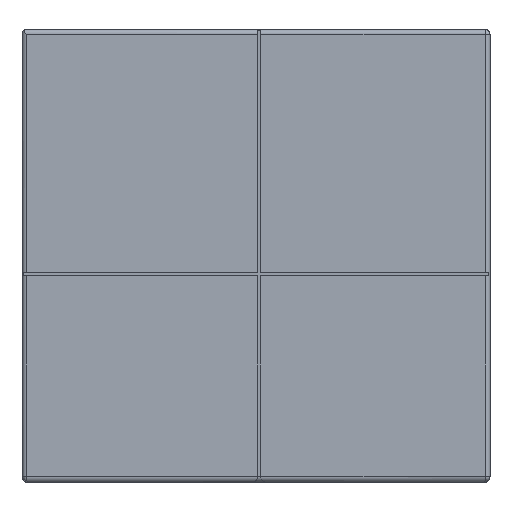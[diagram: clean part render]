
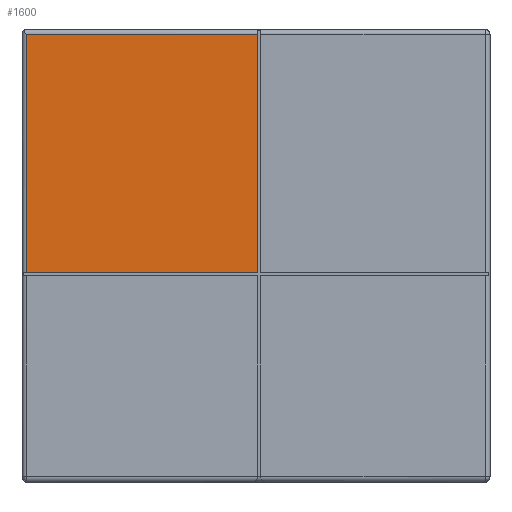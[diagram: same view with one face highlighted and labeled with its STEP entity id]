
A CAD part, front view. The second image highlights one B-rep face of the part: STEP entity #1600.
In plain terms, the highlighted planar face has unit normal (0, -1, 0).
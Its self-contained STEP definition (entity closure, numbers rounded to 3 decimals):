
#142 = AXIS2_PLACEMENT_3D ( 'NONE', #1534, #1301, #2786 ) ;
#184 = LINE ( 'NONE', #1358, #1433 ) ;
#196 = EDGE_CURVE ( 'NONE', #1684, #2502, #2733, .T. ) ;
#400 = VECTOR ( 'NONE', #1566, 1000. ) ;
#567 = CARTESIAN_POINT ( 'NONE',  ( -7.6, -17.25, 6.948 ) ) ;
#638 = ORIENTED_EDGE ( 'NONE', *, *, #196, .T. ) ;
#680 = VECTOR ( 'NONE', #1559, 1000. ) ;
#771 = EDGE_CURVE ( 'NONE', #1382, #825, #1809, .T. ) ;
#815 = CARTESIAN_POINT ( 'NONE',  ( 0.053, -17.25, 6.948 ) ) ;
#825 = VERTEX_POINT ( 'NONE', #815 ) ;
#828 = ORIENTED_EDGE ( 'NONE', *, *, #1761, .T. ) ;
#1113 = DIRECTION ( 'NONE',  ( 0., 0., -1. ) ) ;
#1134 = FACE_OUTER_BOUND ( 'NONE', #2329, .T. ) ;
#1153 = CARTESIAN_POINT ( 'NONE',  ( -7.6, -17.25, 7. ) ) ;
#1301 = DIRECTION ( 'NONE',  ( 0., 1., 0. ) ) ;
#1318 = ORIENTED_EDGE ( 'NONE', *, *, #771, .T. ) ;
#1325 = PLANE ( 'NONE',  #142 ) ;
#1358 = CARTESIAN_POINT ( 'NONE',  ( 0.053, -17.25, 15. ) ) ;
#1382 = VERTEX_POINT ( 'NONE', #567 ) ;
#1433 = VECTOR ( 'NONE', #1113, 1000. ) ;
#1534 = CARTESIAN_POINT ( 'NONE',  ( -7.75, -17.25, 7. ) ) ;
#1559 = DIRECTION ( 'NONE',  ( 0., 0., -1. ) ) ;
#1566 = DIRECTION ( 'NONE',  ( -1., 0., 0. ) ) ;
#1588 = CARTESIAN_POINT ( 'NONE',  ( -3.849, -17.25, 14.85 ) ) ;
#1600 = ADVANCED_FACE ( 'NONE', ( #1134 ), #1325, .F. ) ;
#1684 = VERTEX_POINT ( 'NONE', #2366 ) ;
#1761 = EDGE_CURVE ( 'NONE', #2502, #1382, #2671, .T. ) ;
#1809 = LINE ( 'NONE', #2289, #2423 ) ;
#2180 = ORIENTED_EDGE ( 'NONE', *, *, #2223, .F. ) ;
#2223 = EDGE_CURVE ( 'NONE', #1684, #825, #184, .T. ) ;
#2289 = CARTESIAN_POINT ( 'NONE',  ( -7.75, -17.25, 6.948 ) ) ;
#2329 = EDGE_LOOP ( 'NONE', ( #2180, #638, #828, #1318 ) ) ;
#2366 = CARTESIAN_POINT ( 'NONE',  ( 0.053, -17.25, 14.85 ) ) ;
#2423 = VECTOR ( 'NONE', #2688, 1000. ) ;
#2502 = VERTEX_POINT ( 'NONE', #2562 ) ;
#2562 = CARTESIAN_POINT ( 'NONE',  ( -7.6, -17.25, 14.85 ) ) ;
#2671 = LINE ( 'NONE', #1153, #680 ) ;
#2688 = DIRECTION ( 'NONE',  ( 1., 0., 0. ) ) ;
#2733 = LINE ( 'NONE', #1588, #400 ) ;
#2786 = DIRECTION ( 'NONE',  ( 0., 0., 1. ) ) ;
